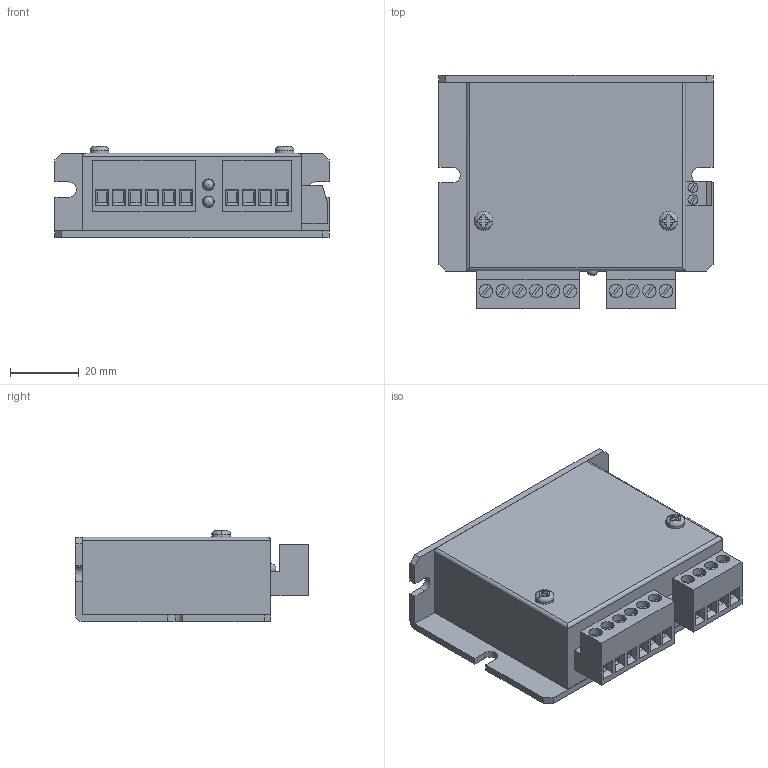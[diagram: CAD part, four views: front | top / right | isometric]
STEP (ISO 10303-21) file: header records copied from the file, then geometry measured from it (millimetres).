
FILE_DESCRIPTION (( 'STEP AP214' ), '1' );
FILE_NAME ('EXD2025MB.STEP', '2011-09-22T01:23:29', ( 'extion' ), ( '' ), 'SwSTEP 2.0', 'SolidWorks 2010', '' );
FILE_SCHEMA (( 'AUTOMOTIVE_DESIGN' ));
Length unit declared in the file: millimetre
Products named in the file (1): EXD2025MB
Bounding box: 80 x 68 x 26.6 mm (x, y, z)
Volume: 98448.2 mm3; surface area: 20244.3 mm2
Topology: 1 solids, 1 shells, 392 faces, 1000 edges, 644 vertices
Faces by surface type: plane 331, cylinder 55, torus 4, sphere 2
Entity records: 13376 total; most frequent: CARTESIAN_POINT 2113, ORIENTED_EDGE 1988, DIRECTION 1930, EDGE_CURVE 994, LINE 808, VECTOR 808, VERTEX_POINT 640, AXIS2_PLACEMENT_3D 561
